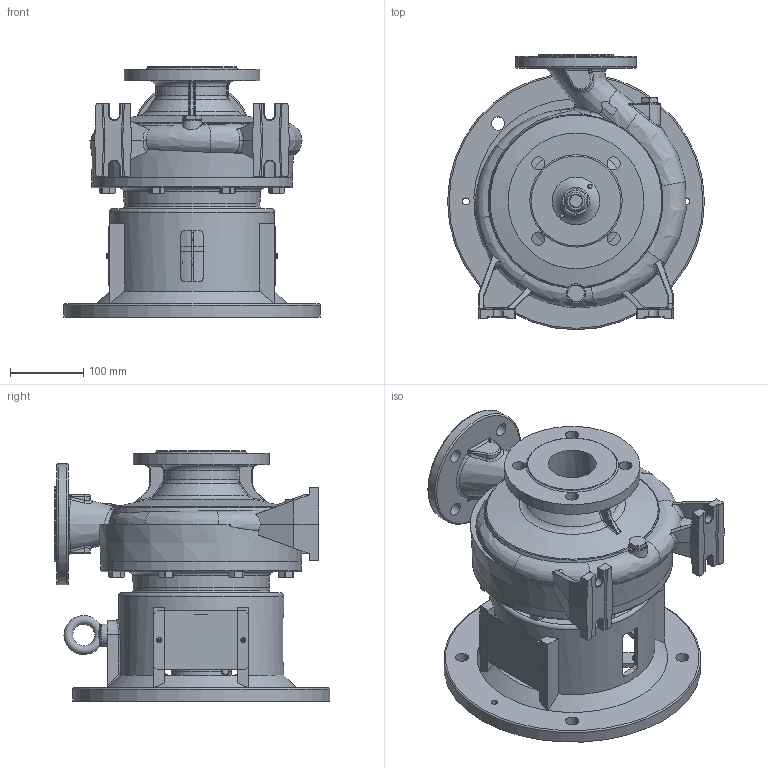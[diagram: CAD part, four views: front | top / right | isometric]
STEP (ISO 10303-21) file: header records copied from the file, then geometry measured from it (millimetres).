
FILE_DESCRIPTION (( 'STEP AP203' ), '1' );
FILE_NAME ('ING 50-200 2P.STEP', '2018-10-29T15:15:55', ( 'tecnico1' ), ( '' ), 'SwSTEP 2.0', 'SolidWorks 2017', '' );
FILE_SCHEMA (( 'CONFIG_CONTROL_DESIGN' ));
Length unit declared in the file: millimetre
Products named in the file (20): Rondella 21x37x3; ING 50-200 2P; Supporto motore flang. MEC160-180 (80109 ST)_Lavorato; Protezione supporti (60020 ST)_Lamina; Girante 50-200 A,B,C (30112 ST)_Lavorato A; Dado M20 autobloccante; Vite M10x30 TCCE; Vite M10x30 TE; Rondella 3-8 pollice; Vite M10x55 TTQDE; Ingombri FN30_FN30; Tappo 3-8 ottone; Golfaro M12; Flangia serie 32,40,50,65-200 (27042-27051 ST)_Lavorato 27051L; Vite M4x8 TCCIC; Vite M12x35 TE; O-ring 3.53 x Ø202.80; Linguetta 8x7x30; Corpo pompa 50-200 (16112 ST)_Lavorato; Giunto rigido motore MEC160 FN30 (32013 ST)
Assembly tree (36 placements, depth 2):
  ING 50-200 2P
    Corpo pompa 50-200 (16112 ST)_Lavorato
    Supporto motore flang. MEC160-180 (80109 ST)_Lavorato
    Flangia serie 32,40,50,65-200 (27042-27051 ST)_Lavorato 27051L
    Giunto rigido motore MEC160 FN30 (32013 ST)
    Girante 50-200 A,B,C (30112 ST)_Lavorato A
    Linguetta 8x7x30
    Rondella 21x37x3
    Dado M20 autobloccante
    Ingombri FN30_FN30
    Vite M10x30 TE  x4
    O-ring 3.53 x Ø202.80
    Vite M12x35 TE  x8
    Tappo 3-8 ottone  x2
    Rondella 3-8 pollice  x2
    Golfaro M12
    Protezione supporti (60020 ST)_Lamina  x2
    Vite M4x8 TCCIC  x4
    Vite M10x30 TCCE
    Vite M10x55 TTQDE  x2
Bounding box: 350 x 375 x 341 mm (x, y, z)
Volume: 7111151.2 mm3; surface area: 1482060 mm2
Topology: 38 solids, 38 shells, 1650 faces, 4075 edges, 2524 vertices
Faces by surface type: plane 598, cylinder 417, bspline 233, cone 218, torus 146, sphere 38
Full cylindrical faces by diameter (mm): 3.2 x4, 4 x4, 5 x1, 5.5 x4, 6 x2, 7 x4, 8 x1, 8.5 x3, 9 x14, 9.2 x2, 10 x8, 11 x15, 12 x9, 14.6 x2, 15 x1, 16 x3, 16.6 x2, 16.75 x2, 17 x1, 18 x12, 18.8 x1, 20 x1, 21 x1, 22.75 x2, 23 x1, 24 x1, 30 x2, 30.3 x1, 30.5 x1, 31.2 x1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
Entity records: 80977 total; most frequent: CARTESIAN_POINT 50736, ORIENTED_EDGE 5702, DIRECTION 5353, EDGE_CURVE 2851, AXIS2_PLACEMENT_3D 2232, VERTEX_POINT 1886, EDGE_LOOP 1725, FACE_OUTER_BOUND 1475
